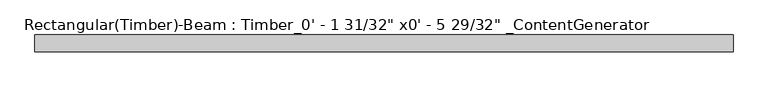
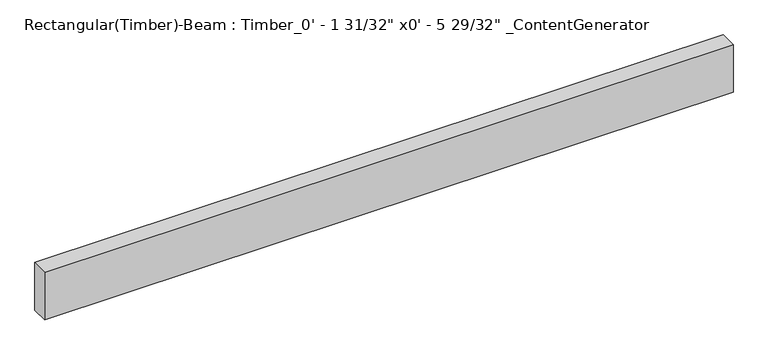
"""IFC4 building model written with IfcOpenShell, lengths in millimetres: beam geometry."""

from ifc_helpers import new_model, si_unit, frame, origin, place, context, project, spatial, polyline, outline, extrude, source, transform, mapped, element, save


def beam_0ed2558e(model_context):
    return source(origin(), model_context, "Body", "SweptSolid", [
        extrude(outline(polyline([(1038.225, 25.4), (1038.225, -25.4), (-1038.225, -25.4), (-1038.225, 25.4), (1038.225, 25.4)])), frame((0.0, 0.0, -76.2), z_axis=(0.0, 0.0, 1.0), x_axis=(1.0, 0.0, 0.0)), (0.0, 0.0, 1.0), 152.4),
    ])


if __name__ == "__main__":
    model = new_model("IFC4")
    model_context = context("Model", 3, world=origin())
    ifc_project = project(units=[si_unit("LENGTHUNIT", "METRE", prefix="MILLI")], contexts=[model_context])
    site = spatial("IfcSite", under=ifc_project)
    building = spatial("IfcBuilding", under=site)
    placement = place(None, origin())
    beam_shape = beam_0ed2558e(model_context)
    element("IfcBeam", 1, ObjectType="Rectangular(Timber)-Beam : Timber_0' - 1 31/32\" x0' - 5 29/32\" _ContentGenerator", at=placement, inside=building, context=model_context, shape_type="MappedRepresentation", body=[
        mapped(beam_shape, transform((0.0, 0.0, 0.0), x_axis=(1.0, 0.0, 0.0), y_axis=(0.0, 1.0, 0.0), z_axis=(0.0, 0.0, 1.0))),
    ])
    save(model, "model.ifc")
